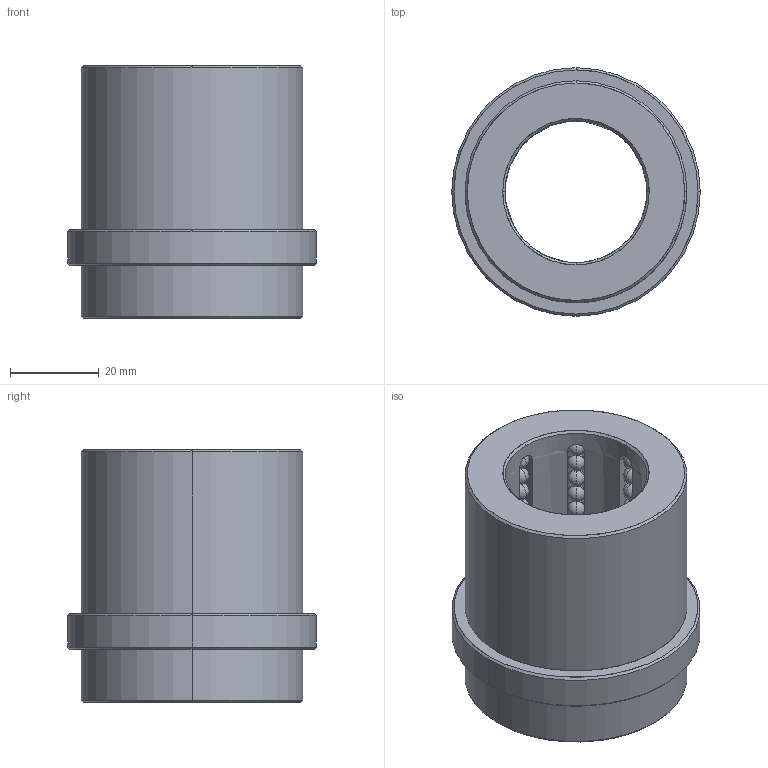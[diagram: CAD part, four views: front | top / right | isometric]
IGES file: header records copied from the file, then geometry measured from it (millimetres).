
Start section: START RECORD GO HERE.
Global section: file name: B8023245.igs; native system: DASSAULT SYSTEMES CATIA V5 R20 - www.3ds.com; preprocessor: CATIA Version 5 Release 20 ; author: Utente; organization: NB04-ASUS; date: 20200419.145933; units: millimetre
Bounding box: 56 x 56 x 57 mm (x, y, z)
Surface area: 26085.9 mm2 (no closed solid volume)
Topology: 0 solids, 0 shells, 460 faces, 1908 edges, 1140 vertices
Faces by surface type: revolution 432, plane 28
